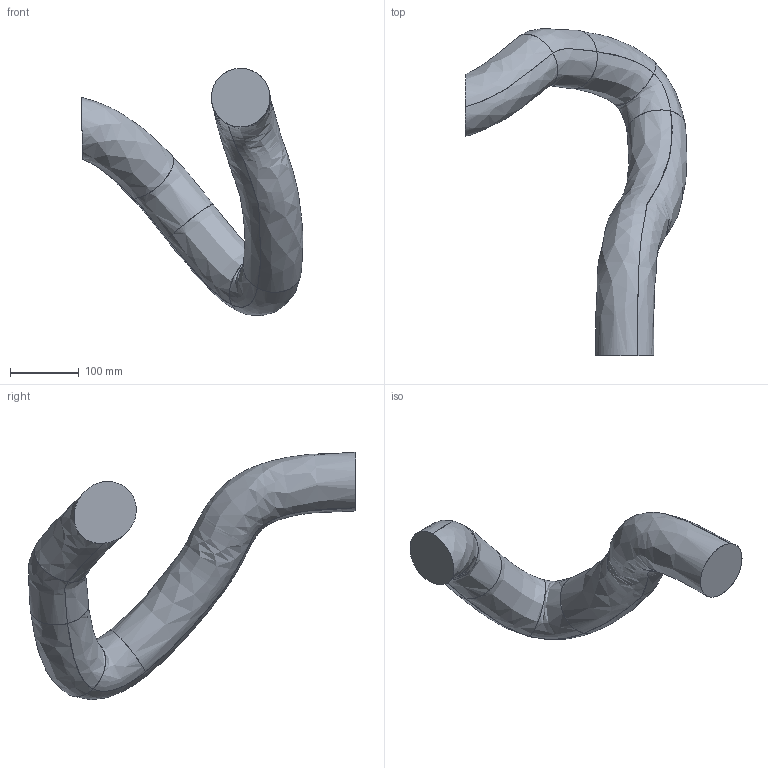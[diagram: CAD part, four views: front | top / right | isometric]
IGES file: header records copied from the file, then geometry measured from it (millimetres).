
Start section: SolidWorks IGES file using analytic representation for surfaces
Global section: file name: N:\DM\Robotics\SEROP_PROJ\Product Development\DevelopmentProjects\Manipulator_Modularity\04. Product Design\06. CAD\Amanda\6730S Simulation models\\IRB6730S-LID-MH_130kg-400_OC_01_IGES_J\IRB6730S-LID_ALL-400-OC_00_LINK05_CABLE.igs; native system: SolidWorks 2024; preprocessor: SolidWorks 2024; author: SEJOHLUN; date: 251219.142012; units: millimetre
Bounding box: 321.62 x 474.64 x 358.67 mm (x, y, z)
Surface area: 249641.4 mm2 (no closed solid volume)
Topology: 0 solids, 0 shells, 12 faces, 224 edges, 224 vertices
Faces by surface type: bspline 12
